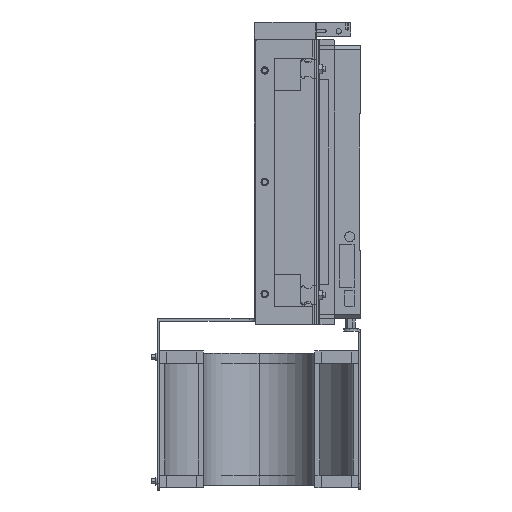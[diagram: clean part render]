
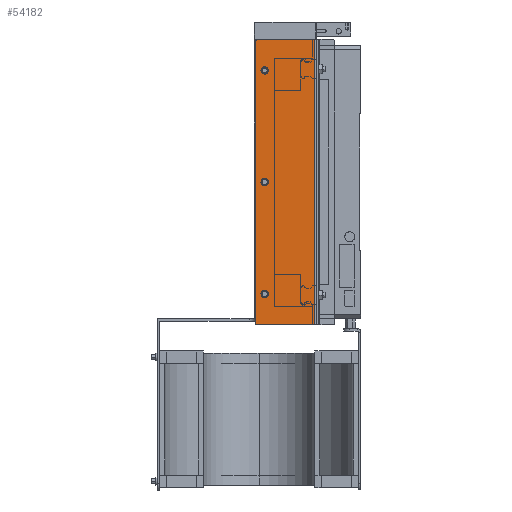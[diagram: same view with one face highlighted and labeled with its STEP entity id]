
A CAD part, left-side view. The second image highlights one B-rep face of the part: STEP entity #54182.
In plain terms, the highlighted planar face has unit normal (-1, 0, 0).
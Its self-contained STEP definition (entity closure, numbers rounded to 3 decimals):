
#732 = DIRECTION ( 'NONE',  ( -1., 0., 0. ) ) ;
#823 = DIRECTION ( 'NONE',  ( 0., 0., 1. ) ) ;
#864 = EDGE_LOOP ( 'NONE', ( #13007, #43777 ) ) ;
#948 = ORIENTED_EDGE ( 'NONE', *, *, #17854, .T. ) ;
#1053 = DIRECTION ( 'NONE',  ( -1., 0., 0. ) ) ;
#1957 = CIRCLE ( 'NONE', #17690, 3. ) ;
#2142 = CIRCLE ( 'NONE', #3459, 3. ) ;
#3323 = FACE_BOUND ( 'NONE', #57997, .T. ) ;
#3459 = AXIS2_PLACEMENT_3D ( 'NONE', #19059, #45388, #60956 ) ;
#3475 = VERTEX_POINT ( 'NONE', #58569 ) ;
#3669 = CARTESIAN_POINT ( 'NONE',  ( -677., 34., 115. ) ) ;
#3891 = CARTESIAN_POINT ( 'NONE',  ( -677., 37., 115. ) ) ;
#4155 = ORIENTED_EDGE ( 'NONE', *, *, #65770, .F. ) ;
#4248 = CARTESIAN_POINT ( 'NONE',  ( -677., 77.5, 90. ) ) ;
#5171 = CIRCLE ( 'NONE', #27439, 3. ) ;
#7553 = EDGE_CURVE ( 'NONE', #36590, #32802, #2142, .T. ) ;
#7947 = VERTEX_POINT ( 'NONE', #28673 ) ;
#8032 = CARTESIAN_POINT ( 'NONE',  ( -677., 77.5, 90. ) ) ;
#9593 = DIRECTION ( 'NONE',  ( 0., 0., 1. ) ) ;
#10665 = CARTESIAN_POINT ( 'NONE',  ( -677., 83., 113. ) ) ;
#11158 = CARTESIAN_POINT ( 'NONE',  ( -677., 77.5, -90. ) ) ;
#12398 = CARTESIAN_POINT ( 'NONE',  ( -677., 77.5, 87. ) ) ;
#12903 = EDGE_CURVE ( 'NONE', #42213, #18076, #15135, .T. ) ;
#12947 = DIRECTION ( 'NONE',  ( 0., 0., 1. ) ) ;
#13007 = ORIENTED_EDGE ( 'NONE', *, *, #7553, .F. ) ;
#13495 = VERTEX_POINT ( 'NONE', #62732 ) ;
#14327 = DIRECTION ( 'NONE',  ( -1., 0., 0. ) ) ;
#15135 = CIRCLE ( 'NONE', #20315, 2. ) ;
#15155 = DIRECTION ( 'NONE',  ( 0., 0., 1. ) ) ;
#16994 = FACE_OUTER_BOUND ( 'NONE', #50980, .T. ) ;
#17317 = VECTOR ( 'NONE', #20210, 1000. ) ;
#17407 = EDGE_CURVE ( 'NONE', #64850, #42213, #57317, .T. ) ;
#17690 = AXIS2_PLACEMENT_3D ( 'NONE', #11158, #1053, #823 ) ;
#17761 = CARTESIAN_POINT ( 'NONE',  ( -677., 85., 115. ) ) ;
#17854 = EDGE_CURVE ( 'NONE', #18076, #29332, #38636, .T. ) ;
#18076 = VERTEX_POINT ( 'NONE', #19752 ) ;
#19059 = CARTESIAN_POINT ( 'NONE',  ( -677., 77.5, -90. ) ) ;
#19615 = EDGE_CURVE ( 'NONE', #7947, #62525, #5171, .T. ) ;
#19752 = CARTESIAN_POINT ( 'NONE',  ( -677., 85., 113. ) ) ;
#20210 = DIRECTION ( 'NONE',  ( 0., 0., -1. ) ) ;
#20315 = AXIS2_PLACEMENT_3D ( 'NONE', #10665, #56395, #15155 ) ;
#21635 = CARTESIAN_POINT ( 'NONE',  ( -677., 83., -115. ) ) ;
#22215 = VERTEX_POINT ( 'NONE', #21635 ) ;
#23728 = ORIENTED_EDGE ( 'NONE', *, *, #59262, .T. ) ;
#24729 = DIRECTION ( 'NONE',  ( 0., 0., 1. ) ) ;
#25065 = AXIS2_PLACEMENT_3D ( 'NONE', #36689, #732, #47259 ) ;
#27359 = CIRCLE ( 'NONE', #46962, 3. ) ;
#27437 = FACE_BOUND ( 'NONE', #864, .T. ) ;
#27439 = AXIS2_PLACEMENT_3D ( 'NONE', #62996, #47447, #37305 ) ;
#27563 = ORIENTED_EDGE ( 'NONE', *, *, #12903, .T. ) ;
#28242 = DIRECTION ( 'NONE',  ( -1., 0., 0. ) ) ;
#28442 = CARTESIAN_POINT ( 'NONE',  ( -677., 77.5, 3. ) ) ;
#28673 = CARTESIAN_POINT ( 'NONE',  ( -677., 77.5, -3. ) ) ;
#29332 = VERTEX_POINT ( 'NONE', #41055 ) ;
#32491 = VERTEX_POINT ( 'NONE', #12398 ) ;
#32802 = VERTEX_POINT ( 'NONE', #34367 ) ;
#33124 = CARTESIAN_POINT ( 'NONE',  ( -677., 34., 115. ) ) ;
#34367 = CARTESIAN_POINT ( 'NONE',  ( -677., 77.5, -87. ) ) ;
#34496 = LINE ( 'NONE', #62693, #53070 ) ;
#36017 = CIRCLE ( 'NONE', #50567, 3. ) ;
#36590 = VERTEX_POINT ( 'NONE', #55191 ) ;
#36689 = CARTESIAN_POINT ( 'NONE',  ( -677., 83., -113. ) ) ;
#37305 = DIRECTION ( 'NONE',  ( 0., 0., 1. ) ) ;
#37808 = VECTOR ( 'NONE', #43193, 1000. ) ;
#38636 = LINE ( 'NONE', #17761, #37808 ) ;
#38776 = CARTESIAN_POINT ( 'NONE',  ( -677., 83., 115. ) ) ;
#40101 = DIRECTION ( 'NONE',  ( 0., 1., 0. ) ) ;
#40240 = DIRECTION ( 'NONE',  ( 0., 0., 1. ) ) ;
#40397 = FACE_BOUND ( 'NONE', #50675, .T. ) ;
#41007 = ORIENTED_EDGE ( 'NONE', *, *, #17407, .T. ) ;
#41055 = CARTESIAN_POINT ( 'NONE',  ( -677., 85., -113. ) ) ;
#41121 = ORIENTED_EDGE ( 'NONE', *, *, #63737, .F. ) ;
#42213 = VERTEX_POINT ( 'NONE', #38776 ) ;
#42437 = ORIENTED_EDGE ( 'NONE', *, *, #19615, .F. ) ;
#42536 = ORIENTED_EDGE ( 'NONE', *, *, #55742, .F. ) ;
#42918 = EDGE_CURVE ( 'NONE', #32802, #36590, #1957, .T. ) ;
#43193 = DIRECTION ( 'NONE',  ( 0., 0., -1. ) ) ;
#43777 = ORIENTED_EDGE ( 'NONE', *, *, #42918, .F. ) ;
#44767 = CIRCLE ( 'NONE', #25065, 2. ) ;
#45388 = DIRECTION ( 'NONE',  ( -1., 0., 0. ) ) ;
#46962 = AXIS2_PLACEMENT_3D ( 'NONE', #8032, #14327, #9593 ) ;
#47186 = CIRCLE ( 'NONE', #60675, 3. ) ;
#47259 = DIRECTION ( 'NONE',  ( 0., 0., 1. ) ) ;
#47447 = DIRECTION ( 'NONE',  ( -1., 0., 0. ) ) ;
#47449 = AXIS2_PLACEMENT_3D ( 'NONE', #33124, #28242, #12947 ) ;
#47737 = EDGE_CURVE ( 'NONE', #3475, #32491, #47186, .T. ) ;
#49536 = LINE ( 'NONE', #50816, #17317 ) ;
#50392 = CARTESIAN_POINT ( 'NONE',  ( -677., 77.5, 0. ) ) ;
#50567 = AXIS2_PLACEMENT_3D ( 'NONE', #50392, #55618, #24729 ) ;
#50675 = EDGE_LOOP ( 'NONE', ( #42437, #41121 ) ) ;
#50816 = CARTESIAN_POINT ( 'NONE',  ( -677., 37., 115. ) ) ;
#50980 = EDGE_LOOP ( 'NONE', ( #41007, #27563, #948, #23728, #59280, #42536 ) ) ;
#53070 = VECTOR ( 'NONE', #58412, 1000. ) ;
#54042 = VECTOR ( 'NONE', #40101, 1000. ) ;
#54182 = ADVANCED_FACE ( 'NONE', ( #40397, #16994, #27437, #3323 ), #58893, .T. ) ;
#55191 = CARTESIAN_POINT ( 'NONE',  ( -677., 77.5, -93. ) ) ;
#55618 = DIRECTION ( 'NONE',  ( -1., 0., 0. ) ) ;
#55742 = EDGE_CURVE ( 'NONE', #64850, #13495, #49536, .T. ) ;
#56395 = DIRECTION ( 'NONE',  ( -1., 0., 0. ) ) ;
#57317 = LINE ( 'NONE', #3669, #54042 ) ;
#57997 = EDGE_LOOP ( 'NONE', ( #4155, #66169 ) ) ;
#58412 = DIRECTION ( 'NONE',  ( 0., 1., 0. ) ) ;
#58569 = CARTESIAN_POINT ( 'NONE',  ( -677., 77.5, 93. ) ) ;
#58893 = PLANE ( 'NONE',  #47449 ) ;
#59262 = EDGE_CURVE ( 'NONE', #29332, #22215, #44767, .T. ) ;
#59280 = ORIENTED_EDGE ( 'NONE', *, *, #60381, .F. ) ;
#60381 = EDGE_CURVE ( 'NONE', #13495, #22215, #34496, .T. ) ;
#60675 = AXIS2_PLACEMENT_3D ( 'NONE', #4248, #65899, #40240 ) ;
#60956 = DIRECTION ( 'NONE',  ( 0., 0., 1. ) ) ;
#62525 = VERTEX_POINT ( 'NONE', #28442 ) ;
#62693 = CARTESIAN_POINT ( 'NONE',  ( -677., 34., -115. ) ) ;
#62732 = CARTESIAN_POINT ( 'NONE',  ( -677., 37., -115. ) ) ;
#62996 = CARTESIAN_POINT ( 'NONE',  ( -677., 77.5, 0. ) ) ;
#63737 = EDGE_CURVE ( 'NONE', #62525, #7947, #36017, .T. ) ;
#64850 = VERTEX_POINT ( 'NONE', #3891 ) ;
#65770 = EDGE_CURVE ( 'NONE', #32491, #3475, #27359, .T. ) ;
#65899 = DIRECTION ( 'NONE',  ( -1., 0., 0. ) ) ;
#66169 = ORIENTED_EDGE ( 'NONE', *, *, #47737, .F. ) ;
